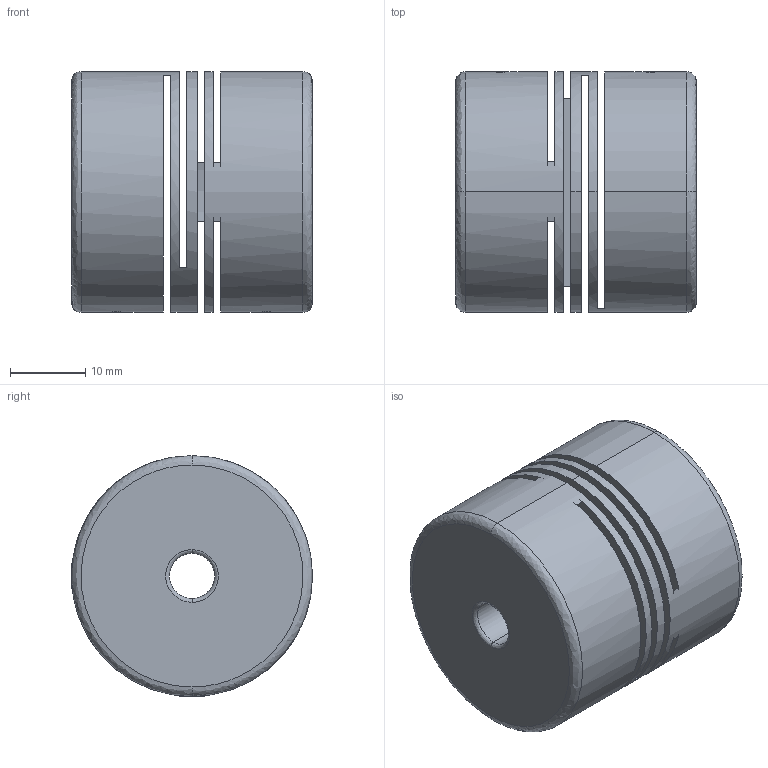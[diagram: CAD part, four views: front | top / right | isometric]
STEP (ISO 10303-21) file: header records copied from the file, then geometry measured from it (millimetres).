
FILE_DESCRIPTION (( 'STEP AP203' ), '1' );
FILE_NAME ('FAMM-S32.STEP', '2008-04-19T05:47:05', ( 'user' ), ( '' ), 'SwSTEP 2.0', 'SolidWorks 2007', '' );
FILE_SCHEMA (( 'CONFIG_CONTROL_DESIGN' ));
Length unit declared in the file: millimetre
Products named in the file (1): FAMM-S32
Bounding box: 32 x 32 x 32 mm (x, y, z)
Surface area: 9901.5 mm2 (no closed solid volume)
Topology: 0 solids, 8 shells, 85 faces, 256 edges, 170 vertices
Faces by surface type: plane 39, cone 18, bspline 16, cylinder 12
Entity records: 5629 total; most frequent: CARTESIAN_POINT 3371, ORIENTED_EDGE 436, DIRECTION 416, EDGE_CURVE 256, VERTEX_POINT 170, AXIS2_PLACEMENT_3D 142, VECTOR 132, LINE 132
